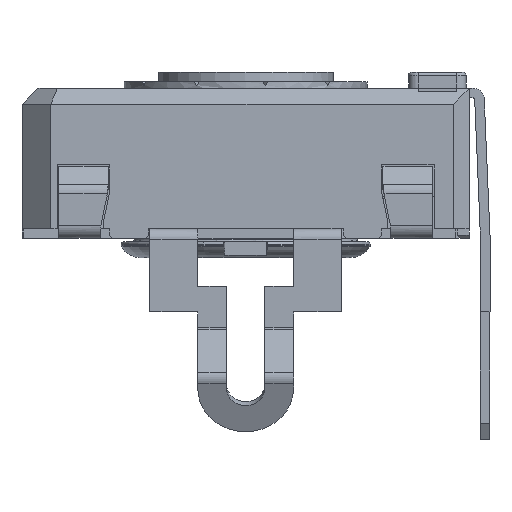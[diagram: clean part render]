
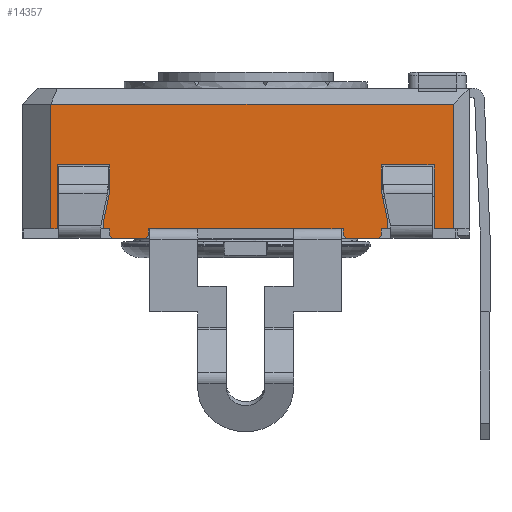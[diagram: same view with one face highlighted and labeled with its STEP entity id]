
A CAD part, left-side view. The second image highlights one B-rep face of the part: STEP entity #14357.
In plain terms, the highlighted planar face has unit normal (-1, 0, 0).
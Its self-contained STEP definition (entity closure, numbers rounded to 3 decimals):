
#1149=FACE_OUTER_BOUND('',#1891,.T.);
#1891=EDGE_LOOP('',(#11555,#11556,#11557,#11558,#11559,#11560,#11561,#11562,
#11563,#11564,#11565,#11566,#11567,#11568,#11569,#11570,#11571,#11572,#11573,
#11574,#11575,#11576,#11577,#11578,#11579,#11580,#11581,#11582));
#2470=LINE('',#20426,#4107);
#2475=LINE('',#20436,#4112);
#2480=LINE('',#20446,#4117);
#2591=LINE('',#20694,#4228);
#3098=LINE('',#22255,#4735);
#3103=LINE('',#22264,#4740);
#3106=LINE('',#22270,#4743);
#3110=LINE('',#22277,#4747);
#3134=LINE('',#22325,#4771);
#3137=LINE('',#22331,#4774);
#3142=LINE('',#22341,#4779);
#3145=LINE('',#22347,#4782);
#3148=LINE('',#22353,#4785);
#3163=LINE('',#22380,#4800);
#3175=LINE('',#22402,#4812);
#3177=LINE('',#22407,#4814);
#3212=LINE('',#22535,#4849);
#3215=LINE('',#22541,#4852);
#3220=LINE('',#22551,#4857);
#3222=LINE('',#22554,#4859);
#3329=LINE('',#22833,#4966);
#3331=LINE('',#22838,#4968);
#3334=LINE('',#22842,#4971);
#3336=LINE('',#22846,#4973);
#3339=LINE('',#22854,#4976);
#3340=LINE('',#22856,#4977);
#3341=LINE('',#22857,#4978);
#3342=LINE('',#22858,#4979);
#4107=VECTOR('',#16393,10.);
#4112=VECTOR('',#16398,10.);
#4117=VECTOR('',#16403,10.);
#4228=VECTOR('',#16614,10.);
#4735=VECTOR('',#17851,10.);
#4740=VECTOR('',#17858,10.);
#4743=VECTOR('',#17863,10.);
#4747=VECTOR('',#17869,10.);
#4771=VECTOR('',#17913,10.);
#4774=VECTOR('',#17918,10.);
#4779=VECTOR('',#17925,10.);
#4782=VECTOR('',#17930,10.);
#4785=VECTOR('',#17935,10.);
#4800=VECTOR('',#17952,10.);
#4812=VECTOR('',#17966,10.);
#4814=VECTOR('',#17970,10.);
#4849=VECTOR('',#18049,10.);
#4852=VECTOR('',#18054,10.);
#4857=VECTOR('',#18061,10.);
#4859=VECTOR('',#18065,10.);
#4966=VECTOR('',#18324,10.);
#4968=VECTOR('',#18328,10.);
#4971=VECTOR('',#18333,10.);
#4973=VECTOR('',#18339,10.);
#4976=VECTOR('',#18350,10.);
#4977=VECTOR('',#18351,10.);
#4978=VECTOR('',#18352,10.);
#4979=VECTOR('',#18353,10.);
#5714=VERTEX_POINT('',#20423);
#5715=VERTEX_POINT('',#20425);
#5719=VERTEX_POINT('',#20433);
#5720=VERTEX_POINT('',#20435);
#5724=VERTEX_POINT('',#20443);
#5725=VERTEX_POINT('',#20445);
#5811=VERTEX_POINT('',#20691);
#5812=VERTEX_POINT('',#20693);
#6248=VERTEX_POINT('',#22252);
#6249=VERTEX_POINT('',#22254);
#6253=VERTEX_POINT('',#22267);
#6256=VERTEX_POINT('',#22275);
#6269=VERTEX_POINT('',#22322);
#6271=VERTEX_POINT('',#22328);
#6275=VERTEX_POINT('',#22338);
#6277=VERTEX_POINT('',#22344);
#6280=VERTEX_POINT('',#22351);
#6291=VERTEX_POINT('',#22378);
#6300=VERTEX_POINT('',#22400);
#6302=VERTEX_POINT('',#22405);
#6326=VERTEX_POINT('',#22538);
#6330=VERTEX_POINT('',#22548);
#6397=VERTEX_POINT('',#22830);
#6398=VERTEX_POINT('',#22832);
#6399=VERTEX_POINT('',#22836);
#6400=VERTEX_POINT('',#22837);
#6401=VERTEX_POINT('',#22853);
#6402=VERTEX_POINT('',#22855);
#7154=EDGE_CURVE('',#5715,#5714,#2470,.T.);
#7159=EDGE_CURVE('',#5720,#5719,#2475,.T.);
#7164=EDGE_CURVE('',#5725,#5724,#2480,.T.);
#7290=EDGE_CURVE('',#5812,#5811,#2591,.T.);
#7969=EDGE_CURVE('',#6249,#6248,#3098,.T.);
#7974=EDGE_CURVE('',#6248,#5725,#3103,.T.);
#7977=EDGE_CURVE('',#5724,#6253,#3106,.T.);
#7981=EDGE_CURVE('',#6256,#6253,#3110,.T.);
#8006=EDGE_CURVE('',#5714,#6269,#3134,.T.);
#8009=EDGE_CURVE('',#6269,#6271,#3137,.T.);
#8014=EDGE_CURVE('',#6271,#6275,#3142,.T.);
#8017=EDGE_CURVE('',#6275,#6277,#3145,.T.);
#8020=EDGE_CURVE('',#6277,#6280,#3148,.T.);
#8035=EDGE_CURVE('',#6280,#6291,#3163,.T.);
#8047=EDGE_CURVE('',#6300,#6291,#3175,.T.);
#8049=EDGE_CURVE('',#6302,#6300,#3177,.T.);
#8096=EDGE_CURVE('',#5812,#6302,#3212,.T.);
#8099=EDGE_CURVE('',#5811,#6326,#3215,.T.);
#8104=EDGE_CURVE('',#6326,#6330,#3220,.T.);
#8106=EDGE_CURVE('',#6330,#6249,#3222,.T.);
#8229=EDGE_CURVE('',#6397,#6398,#3329,.T.);
#8231=EDGE_CURVE('',#6399,#6400,#3331,.T.);
#8234=EDGE_CURVE('',#5715,#6397,#3334,.T.);
#8236=EDGE_CURVE('',#5719,#6400,#3336,.T.);
#8239=EDGE_CURVE('',#6256,#6401,#3339,.T.);
#8240=EDGE_CURVE('',#6402,#6401,#3340,.T.);
#8241=EDGE_CURVE('',#5720,#6402,#3341,.T.);
#8242=EDGE_CURVE('',#6399,#6398,#3342,.T.);
#11555=ORIENTED_EDGE('',*,*,#7974,.T.);
#11556=ORIENTED_EDGE('',*,*,#7164,.T.);
#11557=ORIENTED_EDGE('',*,*,#7977,.T.);
#11558=ORIENTED_EDGE('',*,*,#7981,.F.);
#11559=ORIENTED_EDGE('',*,*,#8239,.T.);
#11560=ORIENTED_EDGE('',*,*,#8240,.F.);
#11561=ORIENTED_EDGE('',*,*,#8241,.F.);
#11562=ORIENTED_EDGE('',*,*,#7159,.T.);
#11563=ORIENTED_EDGE('',*,*,#8236,.T.);
#11564=ORIENTED_EDGE('',*,*,#8231,.F.);
#11565=ORIENTED_EDGE('',*,*,#8242,.T.);
#11566=ORIENTED_EDGE('',*,*,#8229,.F.);
#11567=ORIENTED_EDGE('',*,*,#8234,.F.);
#11568=ORIENTED_EDGE('',*,*,#7154,.T.);
#11569=ORIENTED_EDGE('',*,*,#8006,.T.);
#11570=ORIENTED_EDGE('',*,*,#8009,.T.);
#11571=ORIENTED_EDGE('',*,*,#8014,.T.);
#11572=ORIENTED_EDGE('',*,*,#8017,.T.);
#11573=ORIENTED_EDGE('',*,*,#8020,.T.);
#11574=ORIENTED_EDGE('',*,*,#8035,.T.);
#11575=ORIENTED_EDGE('',*,*,#8047,.F.);
#11576=ORIENTED_EDGE('',*,*,#8049,.F.);
#11577=ORIENTED_EDGE('',*,*,#8096,.F.);
#11578=ORIENTED_EDGE('',*,*,#7290,.T.);
#11579=ORIENTED_EDGE('',*,*,#8099,.T.);
#11580=ORIENTED_EDGE('',*,*,#8104,.T.);
#11581=ORIENTED_EDGE('',*,*,#8106,.T.);
#11582=ORIENTED_EDGE('',*,*,#7969,.T.);
#13414=PLANE('',#15344);
#14357=ADVANCED_FACE('',(#1149),#13414,.T.);
#15344=AXIS2_PLACEMENT_3D('',#22852,#18348,#18349);
#16393=DIRECTION('',(0.,-1.,0.));
#16398=DIRECTION('',(0.,-1.,0.));
#16403=DIRECTION('',(0.,-1.,0.));
#16614=DIRECTION('',(0.,-1.,0.));
#17851=DIRECTION('',(0.,0.208,-0.978));
#17858=DIRECTION('',(0.,0.,-1.));
#17863=DIRECTION('',(0.,0.,-1.));
#17869=DIRECTION('',(0.,0.707,0.707));
#17913=DIRECTION('',(0.,0.,1.));
#17918=DIRECTION('',(0.,0.208,0.978));
#17925=DIRECTION('',(0.,0.,1.));
#17930=DIRECTION('',(0.,-1.,0.));
#17935=DIRECTION('',(0.,0.,-1.));
#17952=DIRECTION('',(0.,-1.,0.));
#17966=DIRECTION('',(0.,0.,-1.));
#17970=DIRECTION('',(0.,-1.,0.));
#18049=DIRECTION('',(0.,0.,1.));
#18054=DIRECTION('',(0.,0.,1.));
#18061=DIRECTION('',(0.,-1.,0.));
#18065=DIRECTION('',(0.,0.,-1.));
#18324=DIRECTION('',(0.,0.707,-0.707));
#18328=DIRECTION('',(0.,0.707,0.707));
#18333=DIRECTION('',(0.,0.,-1.));
#18339=DIRECTION('',(0.,0.,-1.));
#18348=DIRECTION('center_axis',(-1.,0.,0.));
#18349=DIRECTION('ref_axis',(0.,0.,1.));
#18350=DIRECTION('',(0.,-1.,0.));
#18351=DIRECTION('',(0.,0.707,-0.707));
#18352=DIRECTION('',(0.,0.,-1.));
#18353=DIRECTION('',(0.,-1.,0.));
#20423=CARTESIAN_POINT('',(-14.467,-7.348,0.));
#20425=CARTESIAN_POINT('',(-14.467,-7.148,0.));
#20426=CARTESIAN_POINT('',(-14.467,4.102,0.));
#20433=CARTESIAN_POINT('',(-14.467,-5.948,0.));
#20435=CARTESIAN_POINT('',(-14.467,0.152,0.));
#20436=CARTESIAN_POINT('',(-14.467,4.102,0.));
#20443=CARTESIAN_POINT('',(-14.467,1.352,0.));
#20445=CARTESIAN_POINT('',(-14.467,1.552,0.));
#20446=CARTESIAN_POINT('',(-14.467,4.102,0.));
#20691=CARTESIAN_POINT('',(-14.467,3.002,0.));
#20693=CARTESIAN_POINT('',(-14.467,3.202,0.));
#20694=CARTESIAN_POINT('',(-14.467,-2.985,0.));
#22252=CARTESIAN_POINT('',(-14.467,1.552,0.235));
#22254=CARTESIAN_POINT('',(-14.467,1.352,1.176));
#22255=CARTESIAN_POINT('',(-14.467,1.228,1.757));
#22264=CARTESIAN_POINT('',(-14.467,1.552,0.));
#22267=CARTESIAN_POINT('',(-14.467,1.352,-0.2));
#22270=CARTESIAN_POINT('',(-14.467,1.352,0.));
#22275=CARTESIAN_POINT('',(-14.467,1.252,-0.3));
#22277=CARTESIAN_POINT('',(-14.467,-1.436,-2.988));
#22322=CARTESIAN_POINT('',(-14.467,-7.348,0.235));
#22325=CARTESIAN_POINT('',(-14.467,-7.348,0.118));
#22328=CARTESIAN_POINT('',(-14.467,-7.148,1.176));
#22331=CARTESIAN_POINT('',(-14.467,-7.453,-0.254));
#22338=CARTESIAN_POINT('',(-14.467,-7.148,2.));
#22341=CARTESIAN_POINT('',(-14.467,-7.148,0.588));
#22344=CARTESIAN_POINT('',(-14.467,-8.798,2.));
#22347=CARTESIAN_POINT('',(-14.467,-8.523,2.));
#22351=CARTESIAN_POINT('',(-14.467,-8.798,0.));
#22353=CARTESIAN_POINT('',(-14.467,-8.798,0.));
#22378=CARTESIAN_POINT('',(-14.467,-9.398,0.));
#22380=CARTESIAN_POINT('',(-14.467,-9.595,0.));
#22400=CARTESIAN_POINT('',(-14.467,-9.398,3.9));
#22402=CARTESIAN_POINT('',(-14.467,-9.398,0.));
#22405=CARTESIAN_POINT('',(-14.467,3.202,3.9));
#22407=CARTESIAN_POINT('',(-14.467,-6.398,3.9));
#22535=CARTESIAN_POINT('',(-14.467,3.202,0.));
#22538=CARTESIAN_POINT('',(-14.467,3.002,2.));
#22541=CARTESIAN_POINT('',(-14.467,3.002,0.));
#22548=CARTESIAN_POINT('',(-14.467,1.352,2.));
#22551=CARTESIAN_POINT('',(-14.467,-3.448,2.));
#22554=CARTESIAN_POINT('',(-14.467,1.352,1.));
#22830=CARTESIAN_POINT('',(-14.467,-7.148,-0.2));
#22832=CARTESIAN_POINT('',(-14.467,-7.048,-0.3));
#22833=CARTESIAN_POINT('',(-14.467,-7.861,0.513));
#22836=CARTESIAN_POINT('',(-14.467,-6.048,-0.3));
#22837=CARTESIAN_POINT('',(-14.467,-5.948,-0.2));
#22838=CARTESIAN_POINT('',(-14.467,-6.911,-1.163));
#22842=CARTESIAN_POINT('',(-14.467,-7.148,0.));
#22846=CARTESIAN_POINT('',(-14.467,-5.948,0.));
#22852=CARTESIAN_POINT('Origin',(-14.467,-9.898,0.));
#22853=CARTESIAN_POINT('',(-14.467,0.252,-0.3));
#22854=CARTESIAN_POINT('',(-14.467,0.152,-0.3));
#22855=CARTESIAN_POINT('',(-14.467,0.152,-0.2));
#22856=CARTESIAN_POINT('',(-14.467,-2.386,2.338));
#22857=CARTESIAN_POINT('',(-14.467,0.152,0.));
#22858=CARTESIAN_POINT('',(-14.467,-7.148,-0.3));
